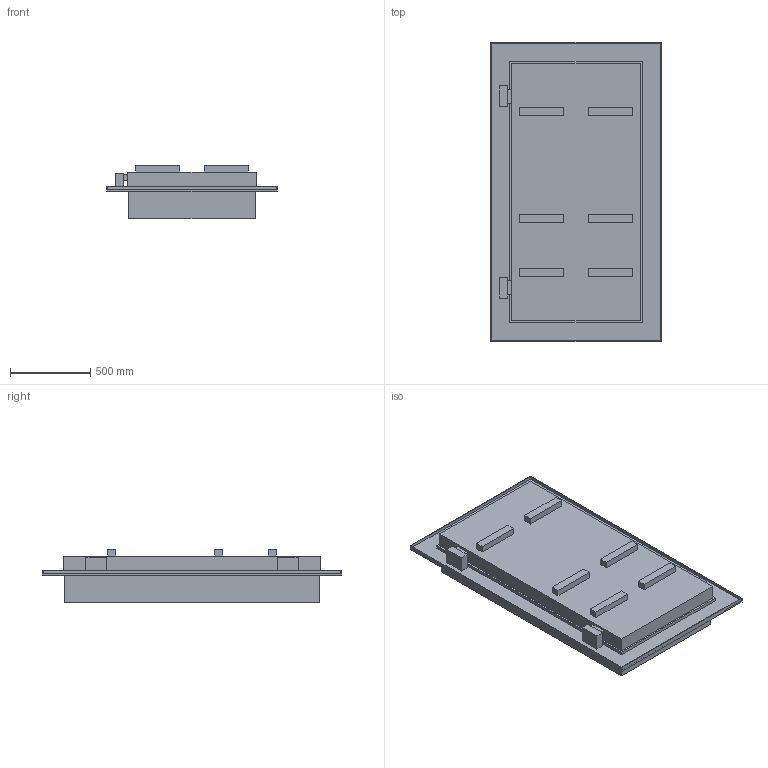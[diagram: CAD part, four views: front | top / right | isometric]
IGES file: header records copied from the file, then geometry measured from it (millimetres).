
Start section:  PTC IGES file: 52385655.igs
Global section: file name: 52385655.igs; native system: Creo Parametric by PTC Inc.; preprocessor: 2022162; author: brma; organization: Unknown; date: 20250424.064426; units: millimetre
Bounding box: 1060 x 1860 x 330 mm (x, y, z)
Surface area: 6971792 mm2 (no closed solid volume)
Topology: 0 solids, 0 shells, 109 faces, 528 edges, 528 vertices
Faces by surface type: bspline 109
